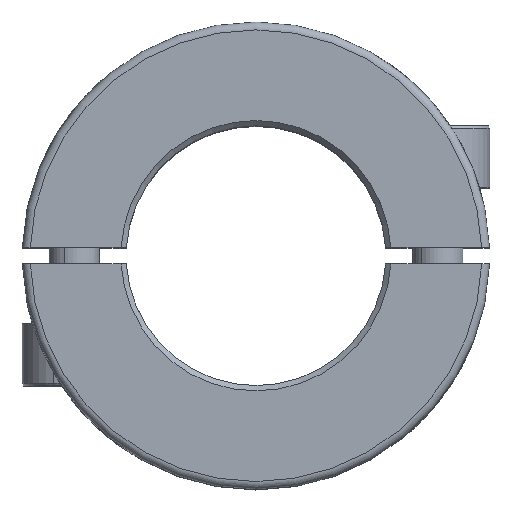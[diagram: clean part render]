
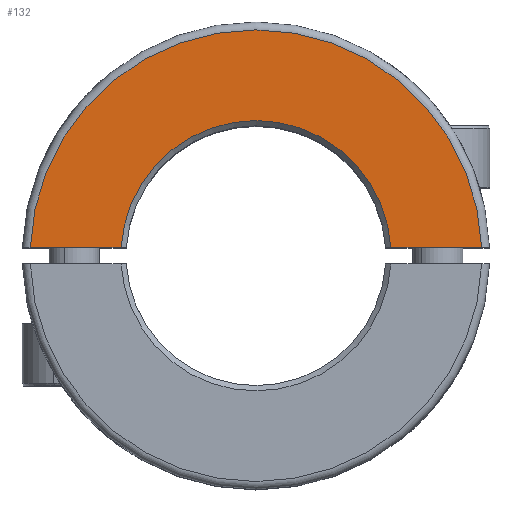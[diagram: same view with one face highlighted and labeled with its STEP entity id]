
A CAD part, top view. The second image highlights one B-rep face of the part: STEP entity #132.
In plain terms, the highlighted planar face has unit normal (0, 0, 1).
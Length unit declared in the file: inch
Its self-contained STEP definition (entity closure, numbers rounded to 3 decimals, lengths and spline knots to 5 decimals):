
#46 = EDGE_CURVE ( 'NONE', #1233, #825, #117, .T. ) ;
#49 = DIRECTION ( 'NONE',  ( -1., 0., 0. ) ) ;
#117 = LINE ( 'NONE', #860, #737 ) ;
#132 = ADVANCED_FACE ( 'NONE', ( #182 ), #1367, .T. ) ;
#140 = ORIENTED_EDGE ( 'NONE', *, *, #478, .T. ) ;
#181 = CARTESIAN_POINT ( 'NONE',  ( 0.88583, 0.0313, 0.62175 ) ) ;
#182 = FACE_OUTER_BOUND ( 'NONE', #1691, .T. ) ;
#439 = CIRCLE ( 'NONE', #1569, 0.5122 ) ;
#460 = CARTESIAN_POINT ( 'NONE',  ( 0., 0., 0.62175 ) ) ;
#478 = EDGE_CURVE ( 'NONE', #954, #825, #439, .T. ) ;
#485 = DIRECTION ( 'NONE',  ( 0., 0., -1. ) ) ;
#538 = CARTESIAN_POINT ( 'NONE',  ( 0.51125, 0.0313, 0.62175 ) ) ;
#555 = CARTESIAN_POINT ( 'NONE',  ( 0.85525, 0.0313, 0.62175 ) ) ;
#597 = DIRECTION ( 'NONE',  ( 1., 0., 0. ) ) ;
#633 = ORIENTED_EDGE ( 'NONE', *, *, #46, .F. ) ;
#737 = VECTOR ( 'NONE', #1314, 39.37008 ) ;
#825 = VERTEX_POINT ( 'NONE', #538 ) ;
#832 = VERTEX_POINT ( 'NONE', #1484 ) ;
#860 = CARTESIAN_POINT ( 'NONE',  ( 0.88583, 0.0313, 0.62175 ) ) ;
#942 = CIRCLE ( 'NONE', #1066, 0.85583 ) ;
#954 = VERTEX_POINT ( 'NONE', #1027 ) ;
#969 = LINE ( 'NONE', #181, #1303 ) ;
#1011 = DIRECTION ( 'NONE',  ( 1., 0., 0. ) ) ;
#1027 = CARTESIAN_POINT ( 'NONE',  ( -0.51125, 0.0313, 0.62175 ) ) ;
#1066 = AXIS2_PLACEMENT_3D ( 'NONE', #1270, #1288, #1011 ) ;
#1093 = CARTESIAN_POINT ( 'NONE',  ( 0., 0., 0.62175 ) ) ;
#1094 = ORIENTED_EDGE ( 'NONE', *, *, #1671, .T. ) ;
#1233 = VERTEX_POINT ( 'NONE', #555 ) ;
#1270 = CARTESIAN_POINT ( 'NONE',  ( 0., 0., 0.62175 ) ) ;
#1288 = DIRECTION ( 'NONE',  ( 0., 0., 1. ) ) ;
#1303 = VECTOR ( 'NONE', #49, 39.37008 ) ;
#1314 = DIRECTION ( 'NONE',  ( -1., 0., 0. ) ) ;
#1359 = ORIENTED_EDGE ( 'NONE', *, *, #1608, .F. ) ;
#1367 = PLANE ( 'NONE',  #1673 ) ;
#1428 = DIRECTION ( 'NONE',  ( 1., 0., 0. ) ) ;
#1484 = CARTESIAN_POINT ( 'NONE',  ( -0.85525, 0.0313, 0.62175 ) ) ;
#1550 = DIRECTION ( 'NONE',  ( 0., 0., 1. ) ) ;
#1569 = AXIS2_PLACEMENT_3D ( 'NONE', #1093, #485, #1428 ) ;
#1608 = EDGE_CURVE ( 'NONE', #954, #832, #969, .T. ) ;
#1671 = EDGE_CURVE ( 'NONE', #1233, #832, #942, .T. ) ;
#1673 = AXIS2_PLACEMENT_3D ( 'NONE', #460, #1550, #597 ) ;
#1691 = EDGE_LOOP ( 'NONE', ( #1094, #1359, #140, #633 ) ) ;
